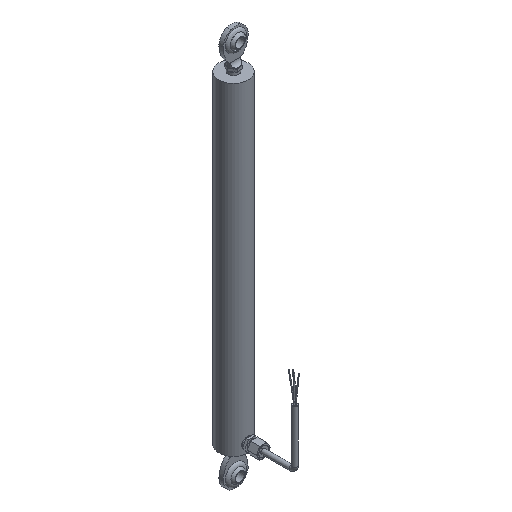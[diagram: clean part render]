
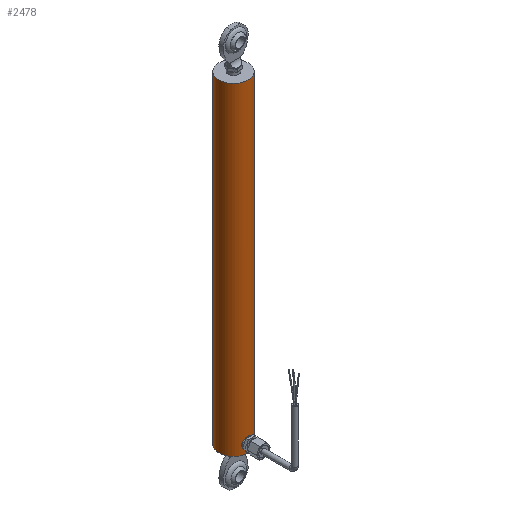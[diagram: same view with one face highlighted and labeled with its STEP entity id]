
A CAD part, isometric view. The second image highlights one B-rep face of the part: STEP entity #2478.
In plain terms, the highlighted cylindrical face has radius 13.335 mm (diameter 26.67 mm), a full revolution.
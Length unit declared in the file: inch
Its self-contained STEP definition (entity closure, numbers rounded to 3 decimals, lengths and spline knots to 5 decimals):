
#67=B_SPLINE_CURVE_WITH_KNOTS('',3,(#4256,#4257,#4258,#4259,#4260,#4261,
#4262,#4263,#4264,#4265),.UNSPECIFIED.,.F.,.F.,(4,2,2,2,4),(0.,0.19357,
0.38715,0.58056,0.77398),.UNSPECIFIED.);
#68=B_SPLINE_CURVE_WITH_KNOTS('',3,(#4266,#4267,#4268,#4269,#4270,#4271,
#4272,#4273,#4274,#4275),.UNSPECIFIED.,.F.,.F.,(4,2,2,2,4),(2.32194,
2.51535,2.70877,2.90234,3.09591),
 .UNSPECIFIED.);
#69=B_SPLINE_CURVE_WITH_KNOTS('',3,(#4277,#4278,#4279,#4280,#4281,#4282,
#4283,#4284,#4285,#4286,#4287,#4288,#4289,#4290,#4291,#4292,#4293,#4294),
 .UNSPECIFIED.,.F.,.F.,(4,2,2,2,2,2,2,2,4),(0.77398,0.96739,
1.16081,1.35438,1.54796,1.74153,1.93511,
2.12852,2.32194),.UNSPECIFIED.);
#152=CYLINDRICAL_SURFACE('',#2882,0.525);
#194=FACE_BOUND('',#567,.T.);
#257=CIRCLE('',#2870,0.525);
#263=CIRCLE('',#2883,0.525);
#405=FACE_OUTER_BOUND('',#566,.T.);
#566=EDGE_LOOP('',(#1853,#1854,#1855,#1856));
#567=EDGE_LOOP('',(#1857,#1858,#1859));
#746=LINE('',#4299,#890);
#890=VECTOR('',#3414,0.525);
#1054=VERTEX_POINT('',#4237);
#1058=VERTEX_POINT('',#4249);
#1059=VERTEX_POINT('',#4251);
#1060=VERTEX_POINT('',#4255);
#1061=VERTEX_POINT('',#4297);
#1333=EDGE_CURVE('',#1054,#1054,#257,.T.);
#1341=EDGE_CURVE('',#1060,#1058,#67,.T.);
#1342=EDGE_CURVE('',#1059,#1060,#68,.T.);
#1343=EDGE_CURVE('',#1058,#1059,#69,.T.);
#1344=EDGE_CURVE('',#1061,#1061,#263,.T.);
#1345=EDGE_CURVE('',#1061,#1054,#746,.T.);
#1853=ORIENTED_EDGE('',*,*,#1344,.F.);
#1854=ORIENTED_EDGE('',*,*,#1345,.T.);
#1855=ORIENTED_EDGE('',*,*,#1333,.T.);
#1856=ORIENTED_EDGE('',*,*,#1345,.F.);
#1857=ORIENTED_EDGE('',*,*,#1341,.T.);
#1858=ORIENTED_EDGE('',*,*,#1343,.T.);
#1859=ORIENTED_EDGE('',*,*,#1342,.T.);
#2478=ADVANCED_FACE('',(#405,#194),#152,.T.);
#2870=AXIS2_PLACEMENT_3D('',#4238,#3384,#3385);
#2882=AXIS2_PLACEMENT_3D('',#4296,#3410,#3411);
#2883=AXIS2_PLACEMENT_3D('',#4298,#3412,#3413);
#3384=DIRECTION('center_axis',(0.,0.,
1.));
#3385=DIRECTION('ref_axis',(-1.,0.,0.));
#3410=DIRECTION('center_axis',(0.,0.,
1.));
#3411=DIRECTION('ref_axis',(-1.,0.,0.));
#3412=DIRECTION('center_axis',(0.,0.,
1.));
#3413=DIRECTION('ref_axis',(-1.,0.,0.));
#3414=DIRECTION('',(0.,0.,-1.));
#4237=CARTESIAN_POINT('',(0.525,0.,0.));
#4238=CARTESIAN_POINT('Origin',(0.,0.,0.));
#4249=CARTESIAN_POINT('',(0.,-0.525,0.11847));
#4251=CARTESIAN_POINT('',(0.,-0.525,0.51847));
#4255=CARTESIAN_POINT('',(0.2,-0.48541,0.31847));
#4256=CARTESIAN_POINT('Ctrl Pts',(0.2,-0.48541,0.31847));
#4257=CARTESIAN_POINT('Ctrl Pts',(0.2,-0.48541,0.29307));
#4258=CARTESIAN_POINT('Ctrl Pts',(0.19487,-0.48762,
0.26617));
#4259=CARTESIAN_POINT('Ctrl Pts',(0.17439,-0.49531,
0.21699));
#4260=CARTESIAN_POINT('Ctrl Pts',(0.15904,-0.50066,
0.19467));
#4261=CARTESIAN_POINT('Ctrl Pts',(0.12381,-0.51052,
0.15944));
#4262=CARTESIAN_POINT('Ctrl Pts',(0.10149,-0.5157,
0.14409));
#4263=CARTESIAN_POINT('Ctrl Pts',(0.05229,-0.52298,
0.1236));
#4264=CARTESIAN_POINT('Ctrl Pts',(0.02538,-0.525,0.11847));
#4265=CARTESIAN_POINT('Ctrl Pts',(0.,-0.525,0.11847));
#4266=CARTESIAN_POINT('Ctrl Pts',(0.,-0.525,0.51847));
#4267=CARTESIAN_POINT('Ctrl Pts',(0.02538,-0.525,0.51847));
#4268=CARTESIAN_POINT('Ctrl Pts',(0.05229,-0.52298,
0.51335));
#4269=CARTESIAN_POINT('Ctrl Pts',(0.10149,-0.5157,
0.49285));
#4270=CARTESIAN_POINT('Ctrl Pts',(0.12381,-0.51052,
0.4775));
#4271=CARTESIAN_POINT('Ctrl Pts',(0.15904,-0.50066,
0.44227));
#4272=CARTESIAN_POINT('Ctrl Pts',(0.17439,-0.49531,
0.41996));
#4273=CARTESIAN_POINT('Ctrl Pts',(0.19487,-0.48762,
0.37077));
#4274=CARTESIAN_POINT('Ctrl Pts',(0.2,-0.48541,0.34388));
#4275=CARTESIAN_POINT('Ctrl Pts',(0.2,-0.48541,0.31847));
#4277=CARTESIAN_POINT('Ctrl Pts',(0.,-0.525,0.11847));
#4278=CARTESIAN_POINT('Ctrl Pts',(-0.02538,-0.525,0.11847));
#4279=CARTESIAN_POINT('Ctrl Pts',(-0.05229,-0.52298,
0.1236));
#4280=CARTESIAN_POINT('Ctrl Pts',(-0.10149,-0.5157,
0.14409));
#4281=CARTESIAN_POINT('Ctrl Pts',(-0.12381,-0.51052,
0.15944));
#4282=CARTESIAN_POINT('Ctrl Pts',(-0.15904,-0.50066,
0.19467));
#4283=CARTESIAN_POINT('Ctrl Pts',(-0.17439,-0.49531,
0.21699));
#4284=CARTESIAN_POINT('Ctrl Pts',(-0.19487,-0.48762,
0.26617));
#4285=CARTESIAN_POINT('Ctrl Pts',(-0.2,-0.48541,0.29307));
#4286=CARTESIAN_POINT('Ctrl Pts',(-0.2,-0.48541,0.34388));
#4287=CARTESIAN_POINT('Ctrl Pts',(-0.19487,-0.48762,
0.37077));
#4288=CARTESIAN_POINT('Ctrl Pts',(-0.17439,-0.49531,
0.41996));
#4289=CARTESIAN_POINT('Ctrl Pts',(-0.15904,-0.50066,
0.44227));
#4290=CARTESIAN_POINT('Ctrl Pts',(-0.12381,-0.51052,
0.4775));
#4291=CARTESIAN_POINT('Ctrl Pts',(-0.10149,-0.5157,
0.49285));
#4292=CARTESIAN_POINT('Ctrl Pts',(-0.05229,-0.52298,
0.51335));
#4293=CARTESIAN_POINT('Ctrl Pts',(-0.02538,-0.525,0.51847));
#4294=CARTESIAN_POINT('Ctrl Pts',(0.,-0.525,0.51847));
#4296=CARTESIAN_POINT('Origin',(0.,0.,0.));
#4297=CARTESIAN_POINT('',(0.525,0.,11.5));
#4298=CARTESIAN_POINT('Origin',(0.,0.,
11.5));
#4299=CARTESIAN_POINT('',(0.525,0.,0.));
